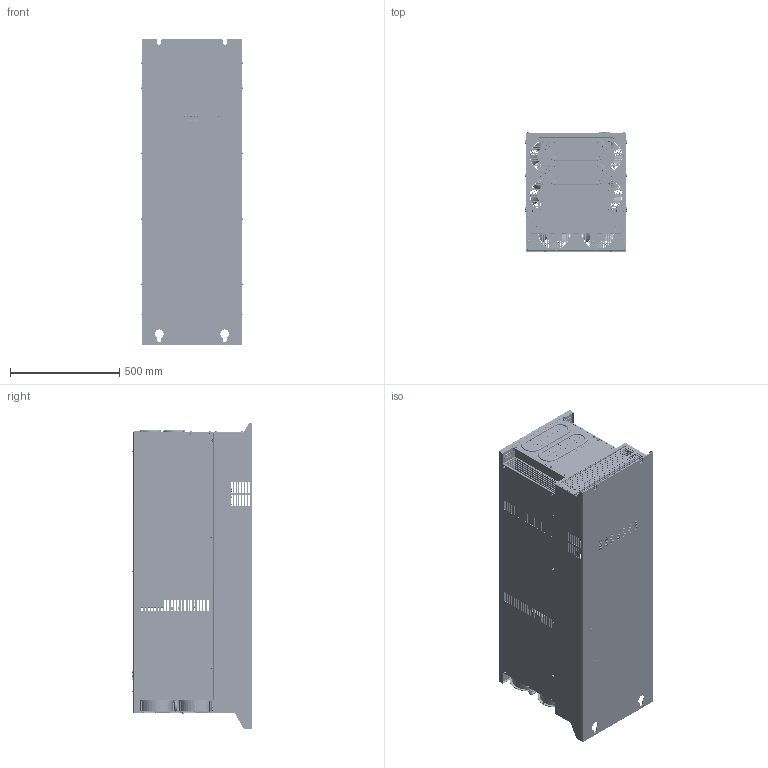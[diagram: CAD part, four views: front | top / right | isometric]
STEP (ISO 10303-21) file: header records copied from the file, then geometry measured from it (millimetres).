
FILE_DESCRIPTION(/* description */ (''),/* implementation_level */ '2;1');
FILE_NAME(/* name */ 'VF302C-B12-3d.step',/* time_stamp */ '2023-03-02T11:04:34+07:00',/* author */ (''),/* organization */ (''),/* preprocessor_version */ 'ST-DEVELOPER v19.2',/* originating_system */ 'Autodesk Translation Framework v11.17.0.187',/* authorisation */ '');
FILE_SCHEMA (('AUTOMOTIVE_DESIGN { 1 0 10303 214 3 1 1 }'));
Products named in the file (38): (Unsaved); VF302C-B12-D_ASM; VF302C-B12-C_ASM; VF302C-B12-P_ASM; P001_ASM; ASM0001_ASM; P034_ASM; P035_ASM; VF302C-B12-S_ASM; M8_GB97_1; M8_GB93_87; M8_GB6170; M6_20X35; M6_GB97_1; M6_GB93_87; M6_GB6170; M4X10_GB819_1; M8X20_GB9074_13; M6X20_GB9074_8; M6X14_GB9074_8; M3X8_GB9074_8; M16_GB97_1; M16_GB93_87; M16X40_GB5783; M4X60_GB9074_8; M4X50_GB9074_8; M5X12_GB9074_8; M5X12_GB9074_13; M4X10_GB9074_8; VEDAVFD; koleso_display; display_2; knopka_pusk; knopka_stop; knopka_prg2; knopka_jog_rev; tablichka3_gc_v_a; gc_v_a
Assembly tree (441 placements, depth 3):
  (Unsaved)
    VF302C-B12-D_ASM
    VF302C-B12-C_ASM
    VF302C-B12-P_ASM
      P001_ASM
      ASM0001_ASM
      P034_ASM
      P035_ASM
    VF302C-B12-S_ASM
      M8_GB97_1  x4
      M8_GB93_87  x4
      M8_GB6170  x4
      M5X12_GB9074_8  x122
      M4X10_GB9074_8  x42
      M8X20_GB9074_13  x57
      M6_20X35
      M3X8_GB9074_8  x35
      M6_GB97_1  x8
      M6_GB93_87  x8
      M6_GB6170  x8
      M4X10_GB819_1  x12
      M6X20_GB9074_8  x24
      M6X14_GB9074_8  x16
      M16_GB97_1  x8
      M16_GB93_87  x8
      M16X40_GB5783  x8
      M4X60_GB9074_8  x24
      M4X50_GB9074_8  x4
      M5X12_GB9074_13  x27
    VEDAVFD
    koleso_display
    display_2
      knopka_pusk
      knopka_stop
      knopka_prg2
      knopka_jog_rev
    tablichka3_gc_v_a
      gc_v_a
Bounding box: 469.8 x 553.37 x 1400 mm (x, y, z)
Volume: 14250471.5 mm3; surface area: 14851132.9 mm2
Topology: 1172 solids, 1605 shells, 48728 faces, 122280 edges, 78012 vertices
Faces by surface type: plane 36547, cylinder 6879, bspline 2550, cone 1585, torus 722, sphere 445
Full cylindrical faces by diameter (mm): 0.5 x8, 0.8 x32, 0.9 x8, 1 x19, 1.08 x1, 1.2 x2, 1.5 x4, 1.6 x2, 1.625 x2, 1.8 x8, 2 x50, 2.2 x36, 2.5 x94, 2.6 x4, 2.65 x12, 3 x46, 3.2 x1, 3.25 x92, 3.3 x3, 3.5 x71, 3.8 x20, 4 x240, 4.1 x72, 4.2 x269, 4.3 x20, 4.39 x17, 4.5 x224, 4.72 x5, 4.917 x16, 4.99 x34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
Entity records: 1248771 total; most frequent: CARTESIAN_POINT 302380, ORIENTED_EDGE 195942, DIRECTION 184291, EDGE_CURVE 97981, LINE 75827, VECTOR 75827, VERTEX_POINT 62307, AXIS2_PLACEMENT_3D 54232
